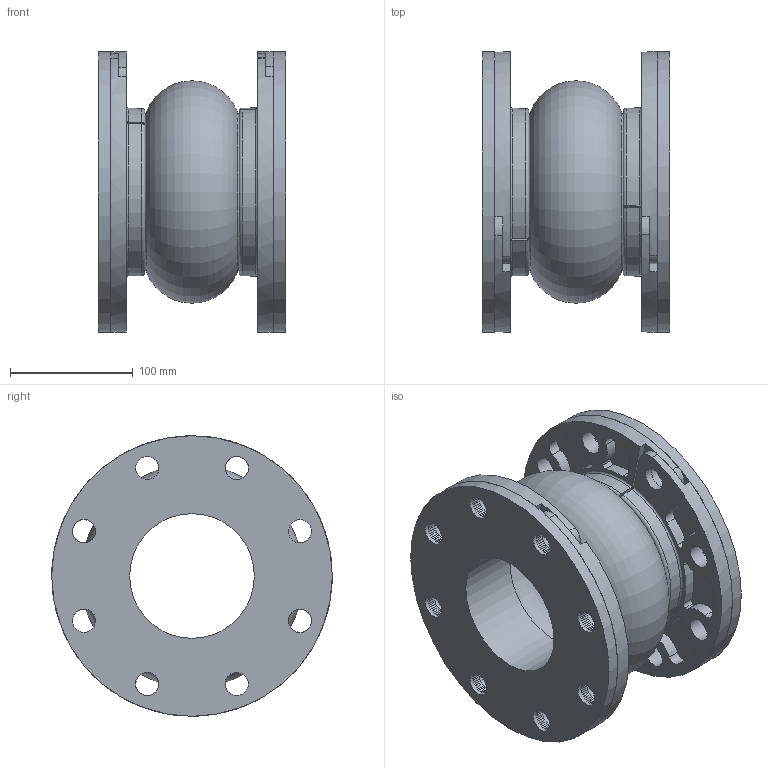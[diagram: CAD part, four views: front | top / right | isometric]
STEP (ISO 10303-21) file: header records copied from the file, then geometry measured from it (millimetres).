
FILE_DESCRIPTION((''),'2;1');
FILE_NAME('N:\StockJoints-ADSK, IGES, STEP, PNG\STEP\451 4x6.stp','2013-05-22T17:51:22',('mquog'),(''),'Autodesk Inventor 2011','Autodesk Inventor 2011','');
FILE_SCHEMA(('AUTOMOTIVE_DESIGN { 1 0 10303 214 1 1 1 1 }'));
Length unit declared in the file: inch
Products named in the file (3): 451 4x6; Style451 4x6; 4DI450BUR150
Assembly tree (5 placements, depth 2):
  451 4x6
    Style451 4x6
    4DI450BUR150  x4
Bounding box: 152.4 x 228.6 x 228.6 mm (x, y, z)
Volume: 2255045.4 mm3; surface area: 2175894.1 mm2
Topology: 15 solids, 15 shells, 508 faces, 1291 edges, 840 vertices
Faces by surface type: cylinder 344, plane 105, torus 55, cone 4
Full cylindrical faces by diameter (mm): 19.05 x132, 101.6 x2, 107.95 x6, 114.3 x8, 116.332 x4, 118.364 x4, 120.396 x4, 122.428 x4, 125.603 x2, 133.35 x2, 225.425 x14, 228.6 x2
Entity records: 8790 total; most frequent: DIRECTION 1611, CARTESIAN_POINT 1355, ORIENTED_EDGE 1058, EDGE_LOOP 790, AXIS2_PLACEMENT_3D 770, EDGE_CURVE 529, FACE_BOUND 483, VERTEX_POINT 473
